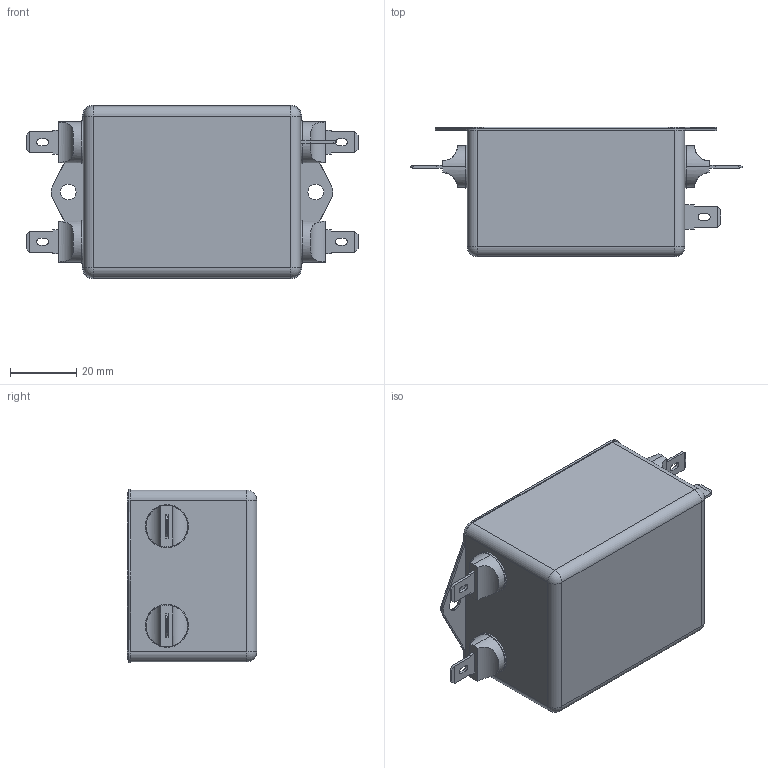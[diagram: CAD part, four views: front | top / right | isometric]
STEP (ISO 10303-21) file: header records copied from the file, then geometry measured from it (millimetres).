
FILE_DESCRIPTION (( 'STEP AP214' ), '1' );
FILE_NAME ('FIHMAXXC2F.STEP', '2018-12-18T04:40:36', ( 'Kenny' ), ( '' ), 'SwSTEP 2.0', 'SolidWorks 2018', '' );
FILE_SCHEMA (( 'AUTOMOTIVE_DESIGN' ));
Length unit declared in the file: millimetre
Products named in the file (1): FIHMAXXC2F
Bounding box: 100.1 x 39 x 52.4 mm (x, y, z)
Volume: 12865 mm3; surface area: 35367.4 mm2
Topology: 7 solids, 7 shells, 457 faces, 1136 edges, 672 vertices
Faces by surface type: plane 197, cylinder 176, sphere 48, torus 28, bspline 8
Entity records: 19218 total; most frequent: CARTESIAN_POINT 3217, DIRECTION 2401, ORIENTED_EDGE 2174, EDGE_CURVE 1087, AXIS2_PLACEMENT_3D 872, VERTEX_POINT 664, VECTOR 657, LINE 657
